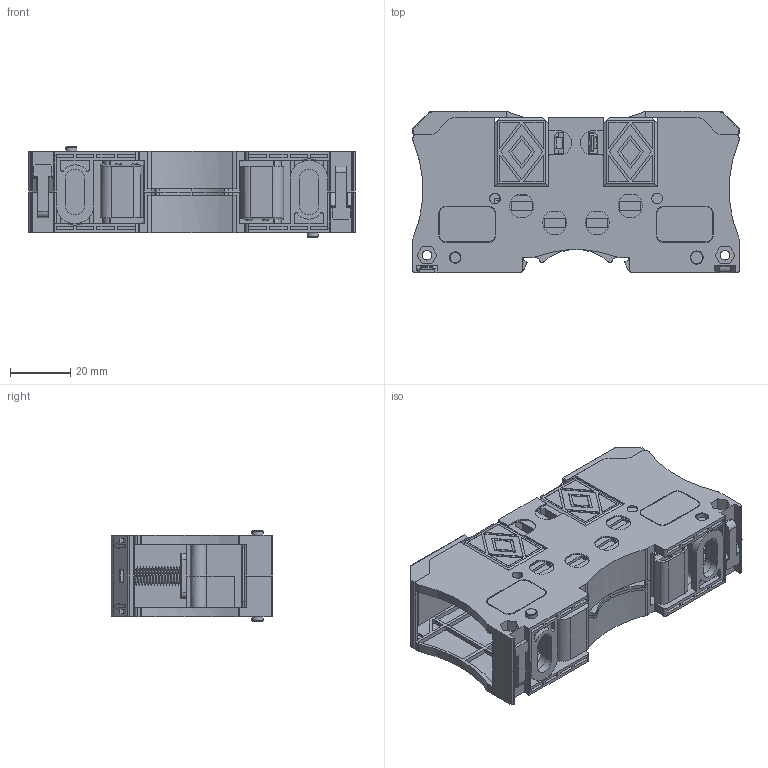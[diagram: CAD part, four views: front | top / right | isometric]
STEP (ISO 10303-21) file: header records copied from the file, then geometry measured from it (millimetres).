
FILE_DESCRIPTION(('Open CASCADE Model'),'2;1');
FILE_NAME('Open CASCADE Shape Model','2023-11-22T11:32:40',('Author'),( 'Open CASCADE'),'Open CASCADE STEP processor 6.5','Open CASCADE 6.5' ,'Unknown');
FILE_SCHEMA(('AUTOMOTIVE_DESIGN { 1 0 10303 214 1 1 1 1 }'));
Length unit declared in the file: millimetre
Products named in the file (2741): CADSOFTTOOLS 1; CADSOFTTOOLS 1.1; CADSOFTTOOLS 1.2; CADSOFTTOOLS 1.3; CADSOFTTOOLS 1.4; CADSOFTTOOLS 1.5; CADSOFTTOOLS 1.6; CADSOFTTOOLS 1.7; CADSOFTTOOLS 1.8; CADSOFTTOOLS 1.9; CADSOFTTOOLS 1.10; CADSOFTTOOLS 1.11; CADSOFTTOOLS 1.12; CADSOFTTOOLS 1.13; CADSOFTTOOLS 1.14; CADSOFTTOOLS 1.15; CADSOFTTOOLS 1.16; CADSOFTTOOLS 1.17; CADSOFTTOOLS 1.18; CADSOFTTOOLS 1.19; CADSOFTTOOLS 1.20; CADSOFTTOOLS 1.21; CADSOFTTOOLS 1.22; CADSOFTTOOLS 1.23; CADSOFTTOOLS 1.24; CADSOFTTOOLS 1.25; CADSOFTTOOLS 1.26; CADSOFTTOOLS 1.27; CADSOFTTOOLS 1.28; CADSOFTTOOLS 1.29; CADSOFTTOOLS 1.30; CADSOFTTOOLS 1.31; CADSOFTTOOLS 1.32; CADSOFTTOOLS 1.33; CADSOFTTOOLS 1.34; CADSOFTTOOLS 1.35; CADSOFTTOOLS 1.36; CADSOFTTOOLS 1.37; CADSOFTTOOLS 1.38; CADSOFTTOOLS 1.39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
Assembly tree (2740 placements, depth 2):
  CADSOFTTOOLS 1
    CADSOFTTOOLS 1.1
    CADSOFTTOOLS 1.2
    CADSOFTTOOLS 1.3
    CADSOFTTOOLS 1.4
    CADSOFTTOOLS 1.5
    CADSOFTTOOLS 1.6
    CADSOFTTOOLS 1.7
    CADSOFTTOOLS 1.8
    CADSOFTTOOLS 1.9
    CADSOFTTOOLS 1.10
    CADSOFTTOOLS 1.11
    CADSOFTTOOLS 1.12
    CADSOFTTOOLS 1.13
    CADSOFTTOOLS 1.14
    CADSOFTTOOLS 1.15
    CADSOFTTOOLS 1.16
    CADSOFTTOOLS 1.17
    CADSOFTTOOLS 1.18
    CADSOFTTOOLS 1.19
    CADSOFTTOOLS 1.20
    CADSOFTTOOLS 1.21
    CADSOFTTOOLS 1.22
    CADSOFTTOOLS 1.23
    CADSOFTTOOLS 1.24
    CADSOFTTOOLS 1.25
    CADSOFTTOOLS 1.26
    CADSOFTTOOLS 1.27
    CADSOFTTOOLS 1.28
    CADSOFTTOOLS 1.29
    CADSOFTTOOLS 1.30
    CADSOFTTOOLS 1.31
    CADSOFTTOOLS 1.32
    CADSOFTTOOLS 1.33
    CADSOFTTOOLS 1.34
    CADSOFTTOOLS 1.35
    CADSOFTTOOLS 1.36
    CADSOFTTOOLS 1.37
    CADSOFTTOOLS 1.38
    CADSOFTTOOLS 1.39
    CADSOFTTOOLS 1.40
    CADSOFTTOOLS 1.41
    CADSOFTTOOLS 1.42
    CADSOFTTOOLS 1.43
    CADSOFTTOOLS 1.44
    CADSOFTTOOLS 1.45
    CADSOFTTOOLS 1.46
    CADSOFTTOOLS 1.47
    CADSOFTTOOLS 1.48
    CADSOFTTOOLS 1.49
    CADSOFTTOOLS 1.50
    CADSOFTTOOLS 1.51
    CADSOFTTOOLS 1.52
    CADSOFTTOOLS 1.53
    CADSOFTTOOLS 1.54
    CADSOFTTOOLS 1.55
    CADSOFTTOOLS 1.56
    CADSOFTTOOLS 1.57
    CADSOFTTOOLS 1.58
    CADSOFTTOOLS 1.59
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Bounding box: 108 x 53.5 x 30 mm (x, y, z)
Surface area: 63664.6 mm2 (no closed solid volume)
Topology: 0 solids, 2740 shells, 2740 faces, 15028 edges, 14970 vertices
Faces by surface type: plane 1817, cylinder 822, cone 57, torus 32, sphere 8, bspline 4
Full cylindrical faces by diameter (mm): 2 x4, 2.1 x4, 2.8 x4, 3 x4, 3.2 x4, 3.5 x2, 3.8 x2, 4 x4, 4.9 x2, 5 x2
Entity records: 345030 total; most frequent: CARTESIAN_POINT 104469, DIRECTION 37344, LINE 20260, VECTOR 20260, ORIENTED_EDGE 15082, PCURVE 15082, DEFINITIONAL_REPRESENTATION 15082, EDGE_CURVE 15026
